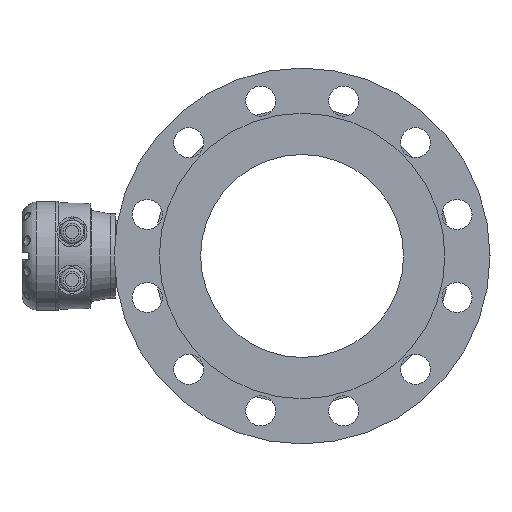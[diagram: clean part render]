
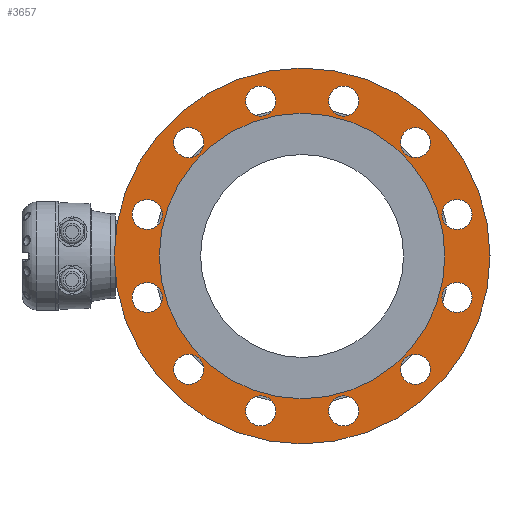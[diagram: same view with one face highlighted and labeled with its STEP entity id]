
A CAD part, left-side view. The second image highlights one B-rep face of the part: STEP entity #3657.
In plain terms, the highlighted planar face has unit normal (-1, 0, 0).
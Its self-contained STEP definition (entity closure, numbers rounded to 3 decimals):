
#340 = CARTESIAN_POINT ( 'NONE',  ( -189.805, -180.017, -10.543 ) ) ;
#343 = DIRECTION ( 'NONE',  ( 1., 0., 0. ) ) ;
#344 = DIRECTION ( 'NONE',  ( 0., 0., -1. ) ) ;
#842 = CARTESIAN_POINT ( 'NONE',  ( -189.805, -293.154, 102.594 ) ) ;
#848 = CARTESIAN_POINT ( 'NONE',  ( -189.805, -180.017, -10.543 ) ) ;
#849 = DIRECTION ( 'NONE',  ( -1., 0., 0. ) ) ;
#850 = DIRECTION ( 'NONE',  ( 0., 0., 1. ) ) ;
#857 = DIRECTION ( 'NONE',  ( 1., 0., 0. ) ) ;
#858 = DIRECTION ( 'NONE',  ( 0., 0., -1. ) ) ;
#1125 = PLANE ( 'NONE',  #7779 ) ;
#1129 = CARTESIAN_POINT ( 'NONE',  ( -189.805, -180.017, -10.543 ) ) ;
#1130 = DIRECTION ( 'NONE',  ( -1., 0., 0. ) ) ;
#1131 = DIRECTION ( 'NONE',  ( 0., 0., -1. ) ) ;
#1502 = CARTESIAN_POINT ( 'NONE',  ( -189.805, -138.606, -165.091 ) ) ;
#1575 = DIRECTION ( 'NONE',  ( -1., 0., 0. ) ) ;
#1576 = DIRECTION ( 'NONE',  ( 0., 0., 1. ) ) ;
#1596 = CARTESIAN_POINT ( 'NONE',  ( -189.805, -221.428, -165.091 ) ) ;
#1603 = DIRECTION ( 'NONE',  ( -1., 0., 0. ) ) ;
#1604 = DIRECTION ( 'NONE',  ( 0., 0., 1. ) ) ;
#1786 = CIRCLE ( 'NONE', #7837, 15. ) ;
#1799 = CIRCLE ( 'NONE', #7842, 15. ) ;
#1898 = CIRCLE ( 'NONE', #7895, 15. ) ;
#1911 = CIRCLE ( 'NONE', #7901, 15. ) ;
#1918 = CIRCLE ( 'NONE', #7906, 15. ) ;
#1930 = CIRCLE ( 'NONE', #7908, 15. ) ;
#1932 = CIRCLE ( 'NONE', #7911, 15. ) ;
#1935 = CIRCLE ( 'NONE', #7894, 15. ) ;
#2312 = CIRCLE ( 'NONE', #7952, 15. ) ;
#2317 = CIRCLE ( 'NONE', #7957, 15. ) ;
#2365 = CIRCLE ( 'NONE', #7976, 15. ) ;
#2718 = EDGE_CURVE ( 'NONE', #3859, #3859, #6402, .T. ) ;
#3568 = EDGE_CURVE ( 'NONE', #3891, #3891, #6456, .T. ) ;
#3574 = EDGE_CURVE ( 'NONE', #3895, #3895, #6460, .T. ) ;
#3657 = ADVANCED_FACE ( 'NONE', ( #6647, #6654, #6656, #6658, #6652, #6642, #6655, #6657, #6659, #6653, #6660, #6661, #6662, #6663 ), #1125, .T. ) ;
#3707 = CARTESIAN_POINT ( 'NONE',  ( -189.805, -334.565, 30.868 ) ) ;
#3716 = DIRECTION ( 'NONE',  ( -1., 0., 0. ) ) ;
#3717 = DIRECTION ( 'NONE',  ( 0., 0., 1. ) ) ;
#3859 = VERTEX_POINT ( 'NONE', #3860 ) ;
#3860 = CARTESIAN_POINT ( 'NONE',  ( -189.805, -180.017, -153.043 ) ) ;
#3891 = VERTEX_POINT ( 'NONE', #3892 ) ;
#3892 = CARTESIAN_POINT ( 'NONE',  ( -189.805, -293.154, 117.594 ) ) ;
#3895 = VERTEX_POINT ( 'NONE', #3896 ) ;
#3896 = CARTESIAN_POINT ( 'NONE',  ( -189.805, -180.017, -198.043 ) ) ;
#3919 = VERTEX_POINT ( 'NONE', #3920 ) ;
#3920 = CARTESIAN_POINT ( 'NONE',  ( -189.805, -138.606, -150.091 ) ) ;
#3929 = VERTEX_POINT ( 'NONE', #3930 ) ;
#3930 = CARTESIAN_POINT ( 'NONE',  ( -189.805, -221.428, -150.091 ) ) ;
#3945 = VERTEX_POINT ( 'NONE', #3946 ) ;
#3946 = CARTESIAN_POINT ( 'NONE',  ( -189.805, -221.428, 159.005 ) ) ;
#3951 = VERTEX_POINT ( 'NONE', #3952 ) ;
#3952 = CARTESIAN_POINT ( 'NONE',  ( -189.805, -138.606, 159.005 ) ) ;
#3955 = VERTEX_POINT ( 'NONE', #3956 ) ;
#3956 = CARTESIAN_POINT ( 'NONE',  ( -189.805, -25.469, 45.868 ) ) ;
#3959 = VERTEX_POINT ( 'NONE', #3960 ) ;
#3960 = CARTESIAN_POINT ( 'NONE',  ( -189.805, -66.88, 117.594 ) ) ;
#3961 = VERTEX_POINT ( 'NONE', #3962 ) ;
#3962 = CARTESIAN_POINT ( 'NONE',  ( -189.805, -293.154, -108.68 ) ) ;
#3963 = VERTEX_POINT ( 'NONE', #3964 ) ;
#3964 = CARTESIAN_POINT ( 'NONE',  ( -189.805, -334.565, -36.954 ) ) ;
#4003 = VERTEX_POINT ( 'NONE', #4004 ) ;
#4004 = CARTESIAN_POINT ( 'NONE',  ( -189.805, -66.88, -108.68 ) ) ;
#4009 = VERTEX_POINT ( 'NONE', #4010 ) ;
#4010 = CARTESIAN_POINT ( 'NONE',  ( -189.805, -25.469, -36.954 ) ) ;
#4027 = VERTEX_POINT ( 'NONE', #4028 ) ;
#4028 = CARTESIAN_POINT ( 'NONE',  ( -189.805, -334.565, 45.868 ) ) ;
#4130 = EDGE_CURVE ( 'NONE', #3919, #3919, #1786, .T. ) ;
#4140 = EDGE_CURVE ( 'NONE', #3929, #3929, #1799, .T. ) ;
#5474 = EDGE_LOOP ( 'NONE', ( #5529 ) ) ;
#5488 = EDGE_LOOP ( 'NONE', ( #5528 ) ) ;
#5493 = EDGE_LOOP ( 'NONE', ( #5524 ) ) ;
#5494 = EDGE_LOOP ( 'NONE', ( #5525 ) ) ;
#5495 = EDGE_LOOP ( 'NONE', ( #5526 ) ) ;
#5497 = EDGE_LOOP ( 'NONE', ( #5516 ) ) ;
#5498 = EDGE_LOOP ( 'NONE', ( #5517 ) ) ;
#5499 = EDGE_LOOP ( 'NONE', ( #5522 ) ) ;
#5500 = EDGE_LOOP ( 'NONE', ( #5518 ) ) ;
#5501 = EDGE_LOOP ( 'NONE', ( #5519 ) ) ;
#5502 = EDGE_LOOP ( 'NONE', ( #5520 ) ) ;
#5503 = EDGE_LOOP ( 'NONE', ( #5521 ) ) ;
#5505 = EDGE_LOOP ( 'NONE', ( #5527 ) ) ;
#5508 = EDGE_LOOP ( 'NONE', ( #5523 ) ) ;
#5516 = ORIENTED_EDGE ( 'NONE', *, *, #2718, .T. ) ;
#5517 = ORIENTED_EDGE ( 'NONE', *, *, #3574, .F. ) ;
#5518 = ORIENTED_EDGE ( 'NONE', *, *, #8042, .F. ) ;
#5519 = ORIENTED_EDGE ( 'NONE', *, *, #8038, .F. ) ;
#5520 = ORIENTED_EDGE ( 'NONE', *, *, #4130, .F. ) ;
#5521 = ORIENTED_EDGE ( 'NONE', *, *, #4140, .F. ) ;
#5522 = ORIENTED_EDGE ( 'NONE', *, *, #7204, .F. ) ;
#5523 = ORIENTED_EDGE ( 'NONE', *, *, #7207, .F. ) ;
#5524 = ORIENTED_EDGE ( 'NONE', *, *, #14306, .F. ) ;
#5525 = ORIENTED_EDGE ( 'NONE', *, *, #3568, .F. ) ;
#5526 = ORIENTED_EDGE ( 'NONE', *, *, #7182, .F. ) ;
#5527 = ORIENTED_EDGE ( 'NONE', *, *, #7190, .F. ) ;
#5528 = ORIENTED_EDGE ( 'NONE', *, *, #7203, .F. ) ;
#5529 = ORIENTED_EDGE ( 'NONE', *, *, #7195, .F. ) ;
#6402 = CIRCLE ( 'NONE', #7660, 142.5 ) ;
#6456 = CIRCLE ( 'NONE', #7694, 15. ) ;
#6460 = CIRCLE ( 'NONE', #7689, 187.5 ) ;
#6642 = FACE_BOUND ( 'NONE', #5493, .T. ) ;
#6647 = FACE_BOUND ( 'NONE', #5474, .T. ) ;
#6652 = FACE_BOUND ( 'NONE', #5494, .T. ) ;
#6653 = FACE_BOUND ( 'NONE', #5502, .T. ) ;
#6654 = FACE_BOUND ( 'NONE', #5488, .T. ) ;
#6655 = FACE_BOUND ( 'NONE', #5508, .T. ) ;
#6656 = FACE_BOUND ( 'NONE', #5505, .T. ) ;
#6657 = FACE_BOUND ( 'NONE', #5499, .T. ) ;
#6658 = FACE_BOUND ( 'NONE', #5495, .T. ) ;
#6659 = FACE_BOUND ( 'NONE', #5503, .T. ) ;
#6660 = FACE_BOUND ( 'NONE', #5501, .T. ) ;
#6661 = FACE_BOUND ( 'NONE', #5500, .T. ) ;
#6662 = FACE_OUTER_BOUND ( 'NONE', #5498, .T. ) ;
#6663 = FACE_BOUND ( 'NONE', #5497, .T. ) ;
#7182 = EDGE_CURVE ( 'NONE', #3945, #3945, #1898, .T. ) ;
#7190 = EDGE_CURVE ( 'NONE', #3951, #3951, #1911, .T. ) ;
#7195 = EDGE_CURVE ( 'NONE', #3955, #3955, #1918, .T. ) ;
#7203 = EDGE_CURVE ( 'NONE', #3959, #3959, #1930, .T. ) ;
#7204 = EDGE_CURVE ( 'NONE', #3961, #3961, #1932, .T. ) ;
#7207 = EDGE_CURVE ( 'NONE', #3963, #3963, #1935, .T. ) ;
#7660 = AXIS2_PLACEMENT_3D ( 'NONE', #340, #343, #344 ) ;
#7689 = AXIS2_PLACEMENT_3D ( 'NONE', #848, #857, #858 ) ;
#7694 = AXIS2_PLACEMENT_3D ( 'NONE', #842, #849, #850 ) ;
#7779 = AXIS2_PLACEMENT_3D ( 'NONE', #1129, #1130, #1131 ) ;
#7837 = AXIS2_PLACEMENT_3D ( 'NONE', #1502, #1575, #1576 ) ;
#7842 = AXIS2_PLACEMENT_3D ( 'NONE', #1596, #1603, #1604 ) ;
#7894 = AXIS2_PLACEMENT_3D ( 'NONE', #12828, #12836, #12838 ) ;
#7895 = AXIS2_PLACEMENT_3D ( 'NONE', #12704, #12706, #12708 ) ;
#7901 = AXIS2_PLACEMENT_3D ( 'NONE', #12742, #12743, #12745 ) ;
#7906 = AXIS2_PLACEMENT_3D ( 'NONE', #12758, #12771, #12773 ) ;
#7908 = AXIS2_PLACEMENT_3D ( 'NONE', #12808, #12814, #12816 ) ;
#7911 = AXIS2_PLACEMENT_3D ( 'NONE', #12803, #12820, #12822 ) ;
#7952 = AXIS2_PLACEMENT_3D ( 'NONE', #13920, #13950, #13952 ) ;
#7957 = AXIS2_PLACEMENT_3D ( 'NONE', #13913, #13974, #13976 ) ;
#7976 = AXIS2_PLACEMENT_3D ( 'NONE', #3707, #3716, #3717 ) ;
#8038 = EDGE_CURVE ( 'NONE', #4003, #4003, #2312, .T. ) ;
#8042 = EDGE_CURVE ( 'NONE', #4009, #4009, #2317, .T. ) ;
#12704 = CARTESIAN_POINT ( 'NONE',  ( -189.805, -221.428, 144.005 ) ) ;
#12706 = DIRECTION ( 'NONE',  ( -1., 0., 0. ) ) ;
#12708 = DIRECTION ( 'NONE',  ( 0., 0., 1. ) ) ;
#12742 = CARTESIAN_POINT ( 'NONE',  ( -189.805, -138.606, 144.005 ) ) ;
#12743 = DIRECTION ( 'NONE',  ( -1., 0., 0. ) ) ;
#12745 = DIRECTION ( 'NONE',  ( 0., 0., 1. ) ) ;
#12758 = CARTESIAN_POINT ( 'NONE',  ( -189.805, -25.469, 30.868 ) ) ;
#12771 = DIRECTION ( 'NONE',  ( -1., 0., 0. ) ) ;
#12773 = DIRECTION ( 'NONE',  ( 0., 0., 1. ) ) ;
#12803 = CARTESIAN_POINT ( 'NONE',  ( -189.805, -293.154, -123.68 ) ) ;
#12808 = CARTESIAN_POINT ( 'NONE',  ( -189.805, -66.88, 102.594 ) ) ;
#12814 = DIRECTION ( 'NONE',  ( -1., 0., 0. ) ) ;
#12816 = DIRECTION ( 'NONE',  ( 0., 0., 1. ) ) ;
#12820 = DIRECTION ( 'NONE',  ( -1., 0., 0. ) ) ;
#12822 = DIRECTION ( 'NONE',  ( 0., 0., 1. ) ) ;
#12828 = CARTESIAN_POINT ( 'NONE',  ( -189.805, -334.565, -51.954 ) ) ;
#12836 = DIRECTION ( 'NONE',  ( -1., 0., 0. ) ) ;
#12838 = DIRECTION ( 'NONE',  ( 0., 0., 1. ) ) ;
#13913 = CARTESIAN_POINT ( 'NONE',  ( -189.805, -25.469, -51.954 ) ) ;
#13920 = CARTESIAN_POINT ( 'NONE',  ( -189.805, -66.88, -123.68 ) ) ;
#13950 = DIRECTION ( 'NONE',  ( -1., 0., 0. ) ) ;
#13952 = DIRECTION ( 'NONE',  ( 0., 0., 1. ) ) ;
#13974 = DIRECTION ( 'NONE',  ( -1., 0., 0. ) ) ;
#13976 = DIRECTION ( 'NONE',  ( 0., 0., 1. ) ) ;
#14306 = EDGE_CURVE ( 'NONE', #4027, #4027, #2365, .T. ) ;
